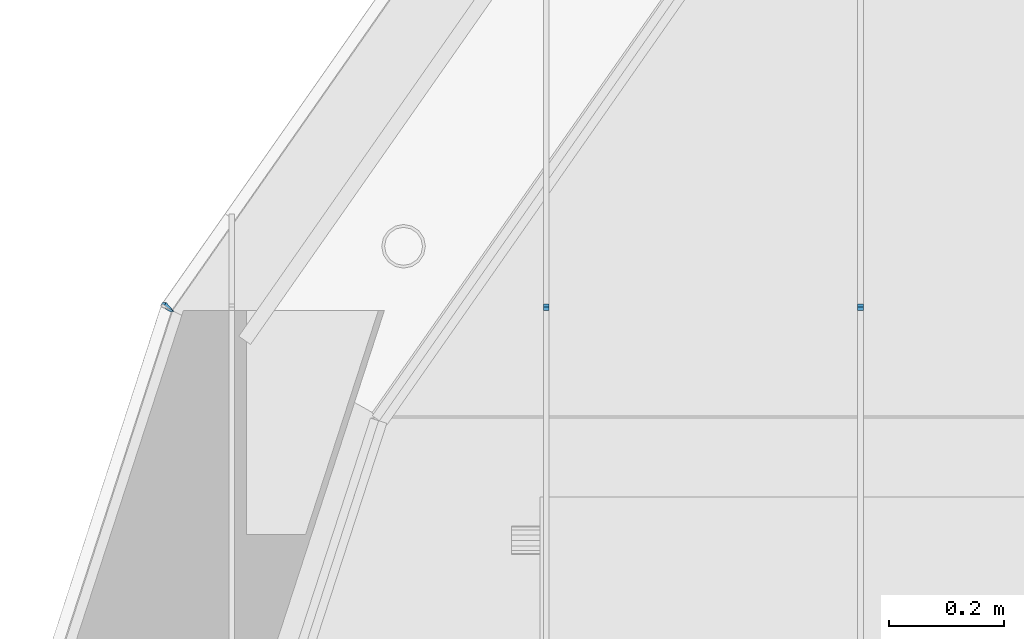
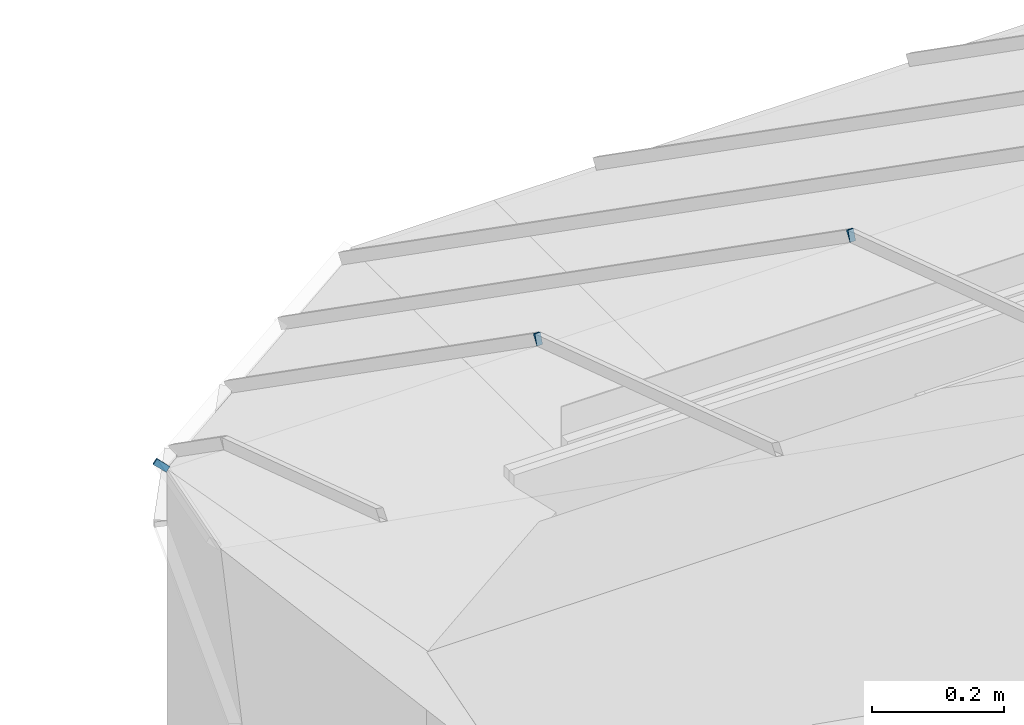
# One storey, part 341 of 583: 3 slabs.
"""IFC2X3 building model written with IfcOpenShell, lengths in metres."""

from ifc_helpers import new_model, entity, si_unit, converted_unit, derived_unit, money_unit, direction, frame, origin_with_axes, place, context, subcontext, project, spatial, faceted_brep, material, type_object, element, save


model = new_model("IFC2X3")

# Units and contexts
model_context = context("Model", 3, precision=1e-05, world=origin_with_axes(), true_north=direction((0.0, 1.0)))
body_context = subcontext(model_context, "Body", "Model", "MODEL_VIEW", scale=1.0)
ifc_project = project(units=[si_unit("LENGTHUNIT", "METRE"), si_unit("AREAUNIT", "SQUARE_METRE"), si_unit("VOLUMEUNIT", "CUBIC_METRE"), si_unit("ABSORBEDDOSEUNIT", "GRAY"), si_unit("AMOUNTOFSUBSTANCEUNIT", "MOLE"), si_unit("DOSEEQUIVALENTUNIT", "SIEVERT"), si_unit("ELECTRICCAPACITANCEUNIT", "FARAD"), si_unit("ELECTRICCHARGEUNIT", "COULOMB"), si_unit("ELECTRICCONDUCTANCEUNIT", "SIEMENS"), si_unit("ELECTRICCURRENTUNIT", "AMPERE"), si_unit("ELECTRICRESISTANCEUNIT", "OHM"), si_unit("ELECTRICVOLTAGEUNIT", "VOLT"), si_unit("ENERGYUNIT", "JOULE"), si_unit("FORCEUNIT", "NEWTON"), si_unit("FREQUENCYUNIT", "HERTZ"), si_unit("ILLUMINANCEUNIT", "LUX"), si_unit("INDUCTANCEUNIT", "HENRY"), si_unit("LUMINOUSFLUXUNIT", "LUMEN"), si_unit("LUMINOUSINTENSITYUNIT", "CANDELA"), si_unit("MAGNETICFLUXDENSITYUNIT", "TESLA"), si_unit("MAGNETICFLUXUNIT", "WEBER"), si_unit("MASSUNIT", "GRAM"), converted_unit("PLANEANGLEUNIT", "degree", entity("IfcReal", 0.0174532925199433), si_unit("PLANEANGLEUNIT", "RADIAN"), dimensions=[0, 0, 0, 0, 0, 0, 0]), si_unit("POWERUNIT", "WATT"), si_unit("PRESSUREUNIT", "PASCAL"), si_unit("RADIOACTIVITYUNIT", "BECQUEREL"), si_unit("SOLIDANGLEUNIT", "STERADIAN"), si_unit("THERMODYNAMICTEMPERATUREUNIT", "KELVIN"), si_unit("TIMEUNIT", "SECOND"), derived_unit("ACCELERATIONUNIT", [(si_unit("LENGTHUNIT", "METRE"), 1), (si_unit("TIMEUNIT", "SECOND"), -2)]), derived_unit("ANGULARVELOCITYUNIT", [(converted_unit("PLANEANGLEUNIT", "degree", entity("IfcReal", 0.0174532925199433), si_unit("PLANEANGLEUNIT", "RADIAN"), dimensions=[0, 0, 0, 0, 0, 0, 0]), 1), (si_unit("TIMEUNIT", "SECOND"), -1)]), derived_unit("CURVATUREUNIT", [(converted_unit("PLANEANGLEUNIT", "degree", entity("IfcReal", 0.0174532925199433), si_unit("PLANEANGLEUNIT", "RADIAN"), dimensions=[0, 0, 0, 0, 0, 0, 0]), 1), (si_unit("LENGTHUNIT", "METRE"), -1)]), derived_unit("DYNAMICVISCOSITYUNIT", [(si_unit("PRESSUREUNIT", "PASCAL"), 1), (si_unit("TIMEUNIT", "SECOND"), 1)]), derived_unit("HEATFLUXDENSITYUNIT", [(si_unit("POWERUNIT", "WATT"), 1), (si_unit("LENGTHUNIT", "METRE"), -2)]), derived_unit("HEATINGVALUEUNIT", [(si_unit("ENERGYUNIT", "JOULE"), 1), (si_unit("MASSUNIT", "GRAM"), -1)]), derived_unit("INTEGERCOUNTRATEUNIT", [(si_unit("TIMEUNIT", "SECOND"), -1)]), derived_unit("IONCONCENTRATIONUNIT", [(si_unit("MASSUNIT", "GRAM"), 1), (si_unit("VOLUMEUNIT", "CUBIC_METRE"), -1)]), derived_unit("ISOTHERMALMOISTURECAPACITYUNIT", [(si_unit("VOLUMEUNIT", "CUBIC_METRE"), 1), (si_unit("MASSUNIT", "GRAM"), -1)]), derived_unit("KINEMATICVISCOSITYUNIT", [(si_unit("AREAUNIT", "SQUARE_METRE"), 1), (si_unit("TIMEUNIT", "SECOND"), -1)]), derived_unit("LINEARFORCEUNIT", [(si_unit("FORCEUNIT", "NEWTON"), 1), (si_unit("LENGTHUNIT", "METRE"), -1)]), derived_unit("LINEARMOMENTUNIT", [(si_unit("FORCEUNIT", "NEWTON"), 1), (si_unit("LENGTHUNIT", "METRE"), -1)]), derived_unit("LINEARSTIFFNESSUNIT", [(si_unit("FORCEUNIT", "NEWTON"), 1), (si_unit("LENGTHUNIT", "METRE"), -1)]), derived_unit("LINEARVELOCITYUNIT", [(si_unit("LENGTHUNIT", "METRE"), 1), (si_unit("TIMEUNIT", "SECOND"), -1)]), derived_unit("LUMINOUSINTENSITYDISTRIBUTIONUNIT", [(si_unit("LUMINOUSINTENSITYUNIT", "CANDELA"), 1), (si_unit("LUMINOUSFLUXUNIT", "LUMEN"), -1)]), derived_unit("MASSDENSITYUNIT", [(si_unit("MASSUNIT", "GRAM"), 1), (si_unit("VOLUMEUNIT", "CUBIC_METRE"), -1)]), derived_unit("MASSFLOWRATEUNIT", [(si_unit("MASSUNIT", "GRAM"), 1), (si_unit("TIMEUNIT", "SECOND"), -1)]), derived_unit("MASSPERLENGTHUNIT", [(si_unit("MASSUNIT", "GRAM"), 1), (si_unit("LENGTHUNIT", "METRE"), -1)]), derived_unit("MODULUSOFELASTICITYUNIT", [(si_unit("FORCEUNIT", "NEWTON"), 1), (si_unit("AREAUNIT", "SQUARE_METRE"), -1)]), derived_unit("MODULUSOFLINEARSUBGRADEREACTIONUNIT", [(si_unit("FORCEUNIT", "NEWTON"), 1), (si_unit("LENGTHUNIT", "METRE"), -2)]), derived_unit("MODULUSOFROTATIONALSUBGRADEREACTIONUNIT", [(si_unit("FORCEUNIT", "NEWTON"), 1), (si_unit("LENGTHUNIT", "METRE"), 1)]), derived_unit("MODULUSOFSUBGRADEREACTIONUNIT", [(si_unit("FORCEUNIT", "NEWTON"), 1), (si_unit("VOLUMEUNIT", "CUBIC_METRE"), -1)]), derived_unit("MOISTUREDIFFUSIVITYUNIT", [(si_unit("VOLUMEUNIT", "CUBIC_METRE"), 1), (si_unit("TIMEUNIT", "SECOND"), -1)]), derived_unit("MOLECULARWEIGHTUNIT", [(si_unit("MASSUNIT", "GRAM"), 1), (si_unit("AMOUNTOFSUBSTANCEUNIT", "MOLE"), -1)]), derived_unit("PLANARFORCEUNIT", [(si_unit("FORCEUNIT", "NEWTON"), 1), (si_unit("LENGTHUNIT", "METRE"), -2)]), derived_unit("ROTATIONALFREQUENCYUNIT", [(si_unit("TIMEUNIT", "SECOND"), -1)]), derived_unit("ROTATIONALMASSUNIT", [(si_unit("MASSUNIT", "GRAM"), 1), (si_unit("LENGTHUNIT", "METRE"), 2)]), derived_unit("ROTATIONALSTIFFNESSUNIT", [(si_unit("FORCEUNIT", "NEWTON"), 1), (si_unit("LENGTHUNIT", "METRE"), 1), (converted_unit("PLANEANGLEUNIT", "degree", entity("IfcReal", 0.0174532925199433), si_unit("PLANEANGLEUNIT", "RADIAN"), dimensions=[0, 0, 0, 0, 0, 0, 0]), -1)]), derived_unit("SECTIONAREAINTEGRALUNIT", [(si_unit("LENGTHUNIT", "METRE"), 5)]), derived_unit("SECTIONMODULUSUNIT", [(si_unit("LENGTHUNIT", "METRE"), 3)]), derived_unit("SHEARMODULUSUNIT", [(si_unit("FORCEUNIT", "NEWTON"), 1), (si_unit("AREAUNIT", "SQUARE_METRE"), -1)]), derived_unit("SOUNDPOWERUNIT", [(si_unit("ENERGYUNIT", "JOULE"), 1), (si_unit("TIMEUNIT", "SECOND"), -1)]), derived_unit("SPECIFICHEATCAPACITYUNIT", [(si_unit("FORCEUNIT", "NEWTON"), 1), (si_unit("MASSUNIT", "GRAM"), -1), (si_unit("THERMODYNAMICTEMPERATUREUNIT", "KELVIN"), -1)]), derived_unit("TEMPERATUREGRADIENTUNIT", [(si_unit("THERMODYNAMICTEMPERATUREUNIT", "KELVIN"), 1), (si_unit("LENGTHUNIT", "METRE"), -1)]), derived_unit("THERMALADMITTANCEUNIT", [(si_unit("POWERUNIT", "WATT"), 1), (si_unit("AREAUNIT", "SQUARE_METRE"), -1), (si_unit("THERMODYNAMICTEMPERATUREUNIT", "KELVIN"), -1)]), derived_unit("THERMALCONDUCTANCEUNIT", [(si_unit("POWERUNIT", "WATT"), 1), (si_unit("LENGTHUNIT", "METRE"), -1), (si_unit("THERMODYNAMICTEMPERATUREUNIT", "KELVIN"), -1)]), derived_unit("THERMALEXPANSIONCOEFFICIENTUNIT", [(si_unit("THERMODYNAMICTEMPERATUREUNIT", "KELVIN"), -1)]), derived_unit("THERMALRESISTANCEUNIT", [(si_unit("AREAUNIT", "SQUARE_METRE"), 1), (si_unit("POWERUNIT", "WATT"), -1)]), derived_unit("THERMALTRANSMITTANCEUNIT", [(si_unit("POWERUNIT", "WATT"), 1), (si_unit("AREAUNIT", "SQUARE_METRE"), -1), (si_unit("THERMODYNAMICTEMPERATUREUNIT", "KELVIN"), -1)]), derived_unit("TORQUEUNIT", [(si_unit("FORCEUNIT", "NEWTON"), 1), (si_unit("LENGTHUNIT", "METRE"), 1)]), derived_unit("VAPORPERMEABILITYUNIT", [(si_unit("MASSUNIT", "GRAM"), 1), (si_unit("TIMEUNIT", "SECOND"), -1)]), derived_unit("VOLUMETRICFLOWRATEUNIT", [(si_unit("VOLUMEUNIT", "CUBIC_METRE"), 1), (si_unit("TIMEUNIT", "SECOND"), -1)]), derived_unit("WARPINGCONSTANTUNIT", [(si_unit("LENGTHUNIT", "METRE"), 6)]), derived_unit("WARPINGMOMENTUNIT", [(si_unit("FORCEUNIT", "NEWTON"), 1), (si_unit("LENGTHUNIT", "METRE"), 2)]), money_unit("GBP")], contexts=[model_context])

# Site, building, storey
site_placement = place(None, origin_with_axes())
site = spatial("IfcSite", under=ifc_project, at=site_placement, Name="Site", CompositionType="ELEMENT")
building_placement = place(site_placement, origin_with_axes())
building = spatial("IfcBuilding", under=site, at=building_placement, Name="Building01", CompositionType="ELEMENT")
storey_placement = place(building_placement, frame((0.0, 0.0, 20.78), z_axis=(0.0, 0.0, 1.0), x_axis=(1.0, 0.0, 0.0)))
storey = spatial("IfcBuildingStorey", under=building, at=storey_placement, Name="RL", CompositionType="ELEMENT", Elevation=20.78)

# Slabs
ifc_material = material(Name="A_BSUK_Roofs")
slab_type = type_object("IfcSlabType", Name="A-FloorsSlabs A_BSUK_Slabs", PredefinedType="FLOOR")
for number, where, z_axis, x_axis, name in (
    (1, (2.538975, 18.791933, 4.882123), (0.0, 1.0, 0.0), (1.0, 0.0, 0.0), "A-FloorsSlabs A_BSUK_Slabs"),
    (2, (1.991475, 18.791933, 4.882123), (0.0, 1.0, 0.0), (1.0, 0.0, 0.0), "A-FloorsSlabs A_BSUK_Slabs"),
):
    element("IfcSlab", number, at=place(storey_placement, frame(where, z_axis=z_axis, x_axis=x_axis)), inside=storey, type_object=slab_type, material=ifc_material, Name=name, ObjectType="A-FloorsSlabs A_BSUK_Slabs", context=body_context, shape_type="Brep", body=[
        faceted_brep([(0.0, 0.0, 0.0), (-0.01, 0.0, 0.0), (-0.01, -0.002638, -0.005291), (0.0, -0.002638, -0.005291), (-0.01, 0.016383, -0.011472), (0.0, 0.016383, -0.011472)], [[[0, 1, 2, 3]], [[3, 2, 4, 5]], [[5, 4, 1, 0]], [[1, 4, 2]], [[3, 5, 0]]]),
    ])
slab_placement = place(storey_placement, frame((1.317818, 18.79295, 4.874044), z_axis=(0.06298158, 0.99275668, -0.10231077), x_axis=(0.64588417, 0.03760644, 0.76250862)))
element("IfcSlab", 3, at=slab_placement, inside=storey, type_object=slab_type, material=ifc_material, Name="A-FloorsSlabs A_BSUK_Slabs", ObjectType="A-FloorsSlabs A_BSUK_Slabs", context=body_context, shape_type="Brep", body=[
    faceted_brep([(-0.000941, -0.002654, -0.005286), (0.00951, -0.002654, -0.005286), (0.00951, 0.000536, 0.001113), (-0.000941, 0.000536, 0.001113), (-0.000941, 0.020349, -0.01276), (0.00951, 0.020349, -0.01276)], [[[0, 1, 2, 3]], [[4, 5, 1, 0]], [[3, 2, 5, 4]], [[1, 5, 2]], [[3, 4, 0]]]),
])

save(model, "model.ifc")
